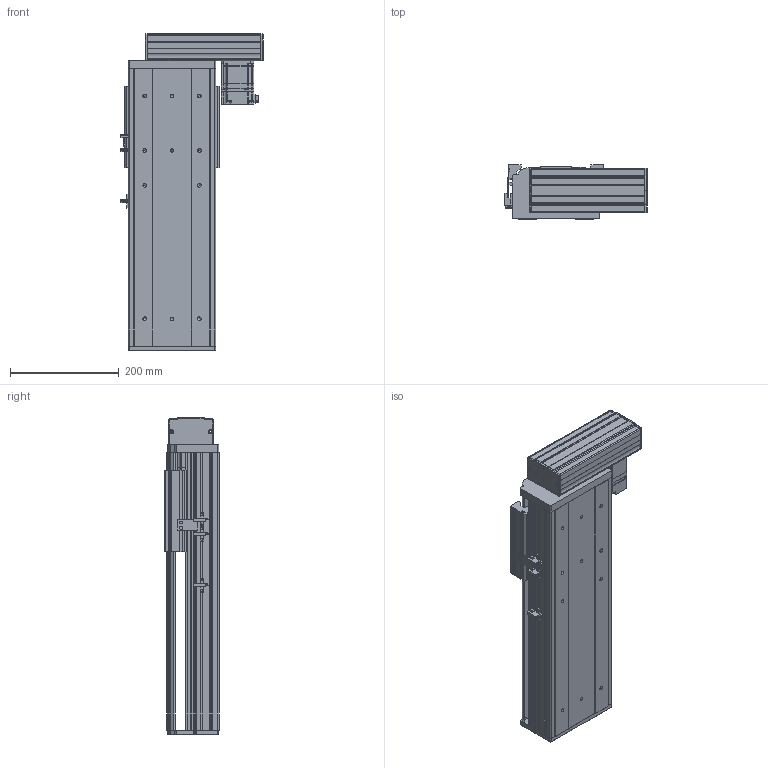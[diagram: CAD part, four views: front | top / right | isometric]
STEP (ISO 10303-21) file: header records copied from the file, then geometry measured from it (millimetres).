
FILE_DESCRIPTION(('Creo Elements/Direct Modeling STEP Export'),'2;1');
FILE_NAME('APOS160RON-ST300.stp','2022-02-18T11:42:30',(''),(''),'Creo Elements/Direct Modeling STEP processor for AP203 (Solid Model)','Creo Elements/Direct Modeling 19.0G 27-Nov-2017 (C) Parametric Technology GmbH','');
FILE_SCHEMA(('CONFIG_CONTROL_DESIGN'));
Length unit declared in the file: millimetre
Products named in the file (17): APCS090_º´·Ä_MOTOR_END_COVER; APOS160_º´·Ä_MOTOR_BRACKET-200_400W; sgmjv_02a_a21; APOS160_º´·Ä_MOTOR_UPPER_COVER(200W_400W); EE_SX672; APOS120_SENSOR_DOG; 160_end_cover_1218; p1; p2; APOS160_Carrier; p3; APOS160_BASE_FRAME-364L; APOS160_END_PLATE; APOS160RON-1520-ST300-20NN00-N-I3R; APOS160RON-ST300
Assembly tree (19 placements, depth 4):
  APOS160RON-ST300
    APOS160RON-1520-ST300-20NN00-N-I3R
      APOS160_END_PLATE
      APOS160_BASE_FRAME-364L
        p3
        p2
        p1
      APOS160_Carrier
        p2
        p1
      160_end_cover_1218
      EE_SX672  x3
      APOS120_SENSOR_DOG
      APOS160_º´·Ä_MOTOR_UPPER_COVER(200W_400W)
      APCS090_º´·Ä_MOTOR_END_COVER  x2
      sgmjv_02a_a21
      APOS160_º´·Ä_MOTOR_BRACKET-200_400W
Bounding box: 260.7 x 100 x 581.5 mm (x, y, z)
Volume: 4138130.7 mm3; surface area: 894454.1 mm2
Topology: 16 solids, 16 shells, 1742 faces, 4815 edges, 3151 vertices
Faces by surface type: plane 1087, cylinder 528, cone 98, bspline 26, sphere 2, torus 1
Entity records: 50645 total; most frequent: CARTESIAN_POINT 9853, ORIENTED_EDGE 8434, DIRECTION 7864, EDGE_CURVE 4217, VECTOR 2986, LINE 2986, VERTEX_POINT 2787, AXIS2_PLACEMENT_3D 2439
